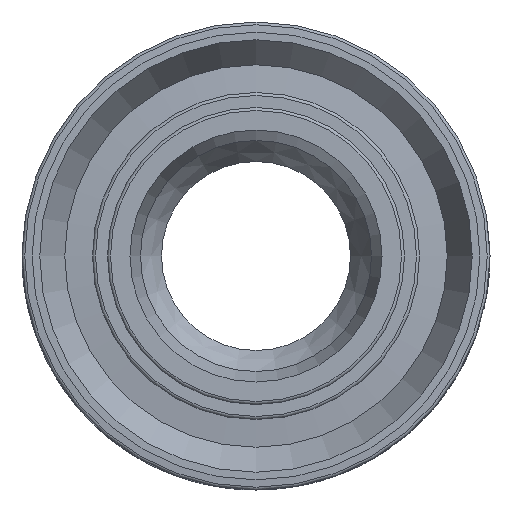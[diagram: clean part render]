
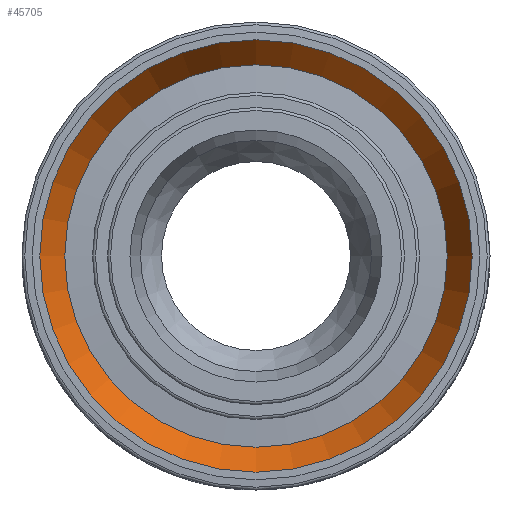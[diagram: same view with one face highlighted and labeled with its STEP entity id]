
A CAD part, left-side view. The second image highlights one B-rep face of the part: STEP entity #45705.
In plain terms, the highlighted conical face has half-angle 29.862 degrees and reference radius 13.582 mm.
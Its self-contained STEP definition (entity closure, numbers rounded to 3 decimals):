
#65=CONICAL_SURFACE('',#47656,13.583,0.521);
#7766=FACE_OUTER_BOUND('',#10501,.T.);
#10501=EDGE_LOOP('',(#42376,#42377,#42378,#42379,#42380,#42381));
#13544=LINE('',#105434,#16504);
#16504=VECTOR('',#54621,13.583);
#17374=CIRCLE('',#47653,12.75);
#17375=CIRCLE('',#47654,12.75);
#17377=CIRCLE('',#47657,14.415);
#17378=CIRCLE('',#47658,14.415);
#22062=VERTEX_POINT('',#105426);
#22063=VERTEX_POINT('',#105428);
#22064=VERTEX_POINT('',#105433);
#22065=VERTEX_POINT('',#105435);
#28895=EDGE_CURVE('',#22063,#22062,#17374,.T.);
#28896=EDGE_CURVE('',#22062,#22063,#17375,.T.);
#28898=EDGE_CURVE('',#22062,#22064,#13544,.T.);
#28899=EDGE_CURVE('',#22065,#22064,#17377,.T.);
#28900=EDGE_CURVE('',#22064,#22065,#17378,.T.);
#42376=ORIENTED_EDGE('',*,*,#28895,.T.);
#42377=ORIENTED_EDGE('',*,*,#28898,.T.);
#42378=ORIENTED_EDGE('',*,*,#28899,.F.);
#42379=ORIENTED_EDGE('',*,*,#28900,.F.);
#42380=ORIENTED_EDGE('',*,*,#28898,.F.);
#42381=ORIENTED_EDGE('',*,*,#28896,.T.);
#45705=ADVANCED_FACE('',(#7766),#65,.F.);
#47653=AXIS2_PLACEMENT_3D('',#105429,#54613,#54614);
#47654=AXIS2_PLACEMENT_3D('',#105430,#54615,#54616);
#47656=AXIS2_PLACEMENT_3D('',#105432,#54619,#54620);
#47657=AXIS2_PLACEMENT_3D('',#105436,#54622,#54623);
#47658=AXIS2_PLACEMENT_3D('',#105437,#54624,#54625);
#54613=DIRECTION('center_axis',(1.,0.,0.));
#54614=DIRECTION('ref_axis',(0.,0.,-1.));
#54615=DIRECTION('center_axis',(1.,0.,0.));
#54616=DIRECTION('ref_axis',(0.,0.,-1.));
#54619=DIRECTION('center_axis',(-1.,0.,0.));
#54620=DIRECTION('ref_axis',(0.,1.,0.));
#54621=DIRECTION('',(-0.867,-0.498,0.));
#54622=DIRECTION('center_axis',(1.,0.,0.));
#54623=DIRECTION('ref_axis',(0.,0.,-1.));
#54624=DIRECTION('center_axis',(1.,0.,0.));
#54625=DIRECTION('ref_axis',(0.,0.,-1.));
#105426=CARTESIAN_POINT('',(-29.816,-12.75,0.));
#105428=CARTESIAN_POINT('',(-29.816,12.75,0.));
#105429=CARTESIAN_POINT('Origin',(-29.816,0.,0.));
#105430=CARTESIAN_POINT('Origin',(-29.816,0.,0.));
#105432=CARTESIAN_POINT('Origin',(-31.266,0.,0.));
#105433=CARTESIAN_POINT('',(-32.716,-14.415,0.));
#105434=CARTESIAN_POINT('',(-31.266,-13.583,0.));
#105435=CARTESIAN_POINT('',(-32.716,14.415,0.));
#105436=CARTESIAN_POINT('Origin',(-32.716,0.,0.));
#105437=CARTESIAN_POINT('Origin',(-32.716,0.,0.));
